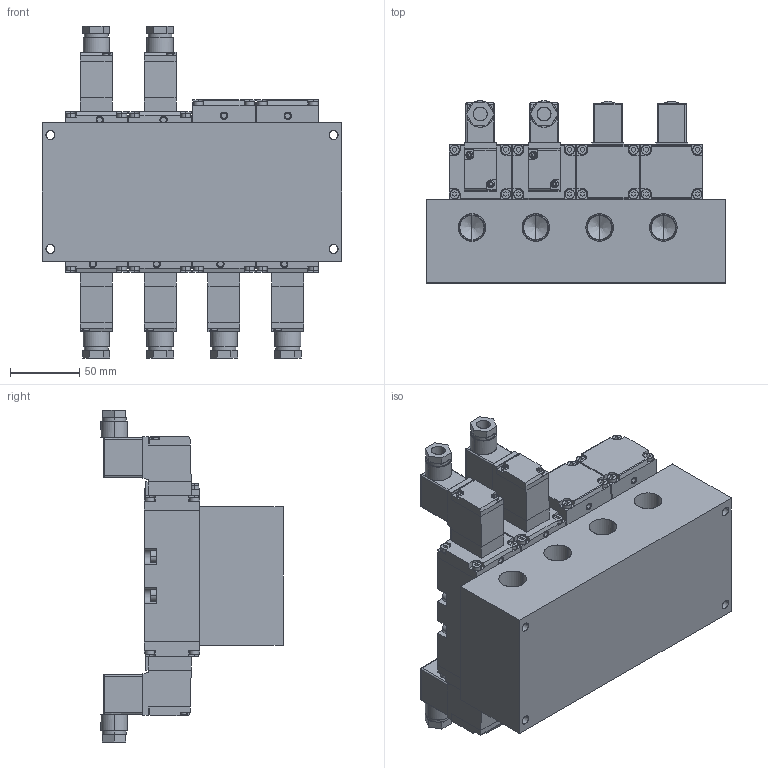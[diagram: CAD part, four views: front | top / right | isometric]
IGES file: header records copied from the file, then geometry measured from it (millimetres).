
Start section: SolidWorks IGES file using analytic representation for surfaces
Global section: file name: C:\Users\Toshiba\Desktop\MF#-PK80.IGS; native system: SolidWorks 2014; preprocessor: SolidWorks 2014; author: Toshiba; date: 160616.101432; units: millimetre
Bounding box: 216 x 131.22 x 239.3 mm (x, y, z)
Surface area: 313734.4 mm2 (no closed solid volume)
Topology: 0 solids, 0 shells, 1715 faces, 17392 edges, 17378 vertices
Faces by surface type: bspline 1255, revolution 460
